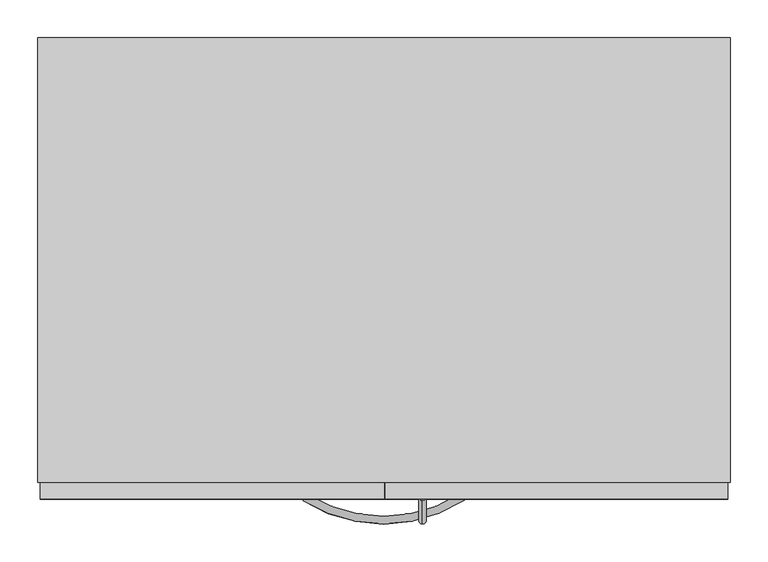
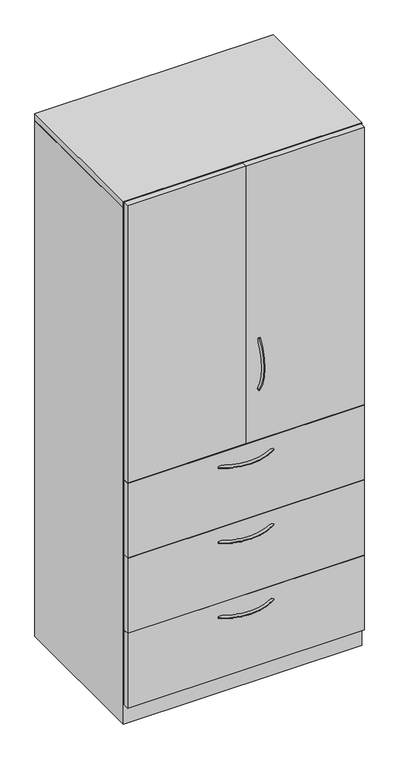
"""IFC4 building model written with IfcOpenShell, lengths in millimetres: furniture geometry, Steelcase - Universal Storage - Cabinet - Combination - Proud Steel : 83 1/2H - Hinged Doors/3 Drawers - 24D x 36W."""

from ifc_helpers import new_model, si_unit, point, frame, origin, place, context, project, spatial, polyline, circle_curve, ellipse_curve, trimmed, outline, extrude, faceted_brep, source, transform, mapped, element, save
from ifc_brep_helpers import plane_surface, revolved_surface, advanced_brep


def furniture_aec6026e(model_context):
    return source(origin(), model_context, "Body", "SolidModel", [
        extrude(outline(polyline([(911.2225413, -479.552), (3.1725353, -479.552), (3.1725353, -457.3261219), (911.2225413, -457.3261219), (911.2225413, -479.552)])), frame((0.0, 0.0, 77.724), z_axis=(0.0, 0.0, 1.0), x_axis=(1.0, 0.0, 0.0)), (0.0, 0.0, 1.0), 303.276),
        extrude(outline(polyline([(911.2225413, -479.552), (3.1725353, -479.552), (3.1725353, -457.3261219), (911.2225413, -457.3261219), (911.2225413, -479.552)])), frame((0.0, 0.0, 382.524), z_axis=(0.0, 0.0, 1.0), x_axis=(1.0, 0.0, 0.0)), (0.0, 0.0, 1.0), 303.276),
        extrude(outline(polyline([(911.2225413, -479.552), (3.1725353, -479.552), (3.1725353, -457.3261219), (911.2225413, -457.3261219), (911.2225413, -479.552)])), frame((0.0, 0.0, 687.3240349), z_axis=(0.0, 0.0, 1.0), x_axis=(1.0, 0.0, 0.0)), (0.0, 0.0, 1.0), 303.2759651),
        extrude(outline(polyline([(457.2, -479.552), (3.1725353, -479.552), (3.1725353, -457.3261219), (457.2, -457.3261219), (457.2, -479.552)])), frame((0.0, 0.0, 992.5062596), z_axis=(0.0, 0.0, 1.0), x_axis=(1.0, 0.0, 0.0)), (0.0, 0.0, 1.0), 1125.22),
        extrude(outline(polyline([(911.2225413, -479.552), (458.7239992, -479.552), (458.7239992, -457.3261219), (911.2225413, -457.3261219), (911.2225413, -479.552)])), frame((0.0, 0.0, 992.5062596), z_axis=(0.0, 0.0, 1.0), x_axis=(1.0, 0.0, 0.0)), (0.0, 0.0, 1.0), 1125.22),
        advanced_brep(
        [(507.9682496, -481.5705994, 1404.643666), (507.9682496, -473.0108019, 1399.1705073), (507.9682496, -481.1337636, 1192.3367456), (507.9682496, -472.5965612, 1197.8450825)],
        [
            (0, 1, circle_curve(frame((507.9682496, -477.2907007, 1401.9070866), z_axis=(0.0, 0.5386967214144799, 0.842499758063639), x_axis=(0.0, 0.842499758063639, -0.5386967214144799)), 5.08)),
            (1, 0, circle_curve(frame((507.9682496, -477.2907007, 1401.9070866), z_axis=(0.0, 0.5386967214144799, 0.842499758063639), x_axis=(0.0, 0.842499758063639, -0.5386967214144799)), 5.08)),
            (2, 3, circle_curve(frame((507.9682496, -476.8651624, 1195.0909141), z_axis=(0.0, 0.5421591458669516, -0.8402758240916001), x_axis=(0.0, 0.8402758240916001, 0.5421591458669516)), 5.08)),
            (3, 2, circle_curve(frame((507.9682496, -476.8651624, 1195.0909141), z_axis=(0.0, 0.5421591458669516, -0.8402758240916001), x_axis=(0.0, 0.8402758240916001, 0.5421591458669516)), 5.08)),
            (3, 1, circle_curve(frame((507.9682496, -316.0827352, 1298.8302589), z_axis=(-1.0, 0.0, 0.0), x_axis=(0.0, -0.8424997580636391, 0.5386967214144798)), 186.2648211)),
            (0, 2, circle_curve(frame((507.9682496, -316.0827352, 1298.8302589), z_axis=(1.0, 0.0, 0.0), x_axis=(0.0, -0.8424997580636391, 0.5386967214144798)), 196.4248211)),
        ],
        [
            plane_surface(frame((508.7619996, -476.6365286, 1401.4888072), z_axis=(0.0, 0.5386967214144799, 0.8424997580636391), x_axis=(1.0, 0.0, 0.0))),
            plane_surface(frame((508.7619996, -476.2127171, 1195.511882), z_axis=(0.0, 0.5421591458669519, -0.8402758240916), x_axis=(1.0, 0.0, 0.0))),
            revolved_surface(trimmed(ellipse_curve(frame((507.9682496, -477.2907007, 1401.9070866), z_axis=(0.0, 0.5386967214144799, 0.842499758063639), x_axis=(0.0, 0.842499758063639, -0.5386967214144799)), 5.08, 5.08), [point((507.9682496, -481.5705994, 1404.643666))], [point((507.9682496, -473.0108019, 1399.1705073))], True, "CARTESIAN"), (508.7619996, -316.0827352, 1298.8302589), (1.0, 0.0, 0.0)),
            revolved_surface(trimmed(ellipse_curve(frame((507.9682496, -477.2907007, 1401.9070866), z_axis=(0.0, 0.5386967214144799, 0.842499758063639), x_axis=(0.0, 0.842499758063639, -0.5386967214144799)), 5.08, 5.08), [point((507.9682496, -473.0108019, 1399.1705073))], [point((507.9682496, -481.5705994, 1404.643666))], True, "CARTESIAN"), (508.7619996, -316.0827352, 1298.8302589), (1.0, 0.0, 0.0)),
        ],
        [
            (0, [[1, 2]]),
            (1, [[3, 4]]),
            (2, [[5, -1, 6, -4]]),
            (3, [[-6, -2, -5, -3]]),
        ],
    ),
        advanced_brep(
        [(350.6245932, -481.5705994, 323.56425), (356.0977519, -473.0108019, 323.56425), (562.9315136, -481.1337636, 323.56425), (557.4231767, -472.5965612, 323.56425)],
        [
            (0, 1, circle_curve(frame((353.3611726, -477.2907007, 323.56425), z_axis=(-0.8424997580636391, 0.5386967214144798, 0.0), x_axis=(0.5386967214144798, 0.8424997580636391, 0.0)), 5.08)),
            (1, 0, circle_curve(frame((353.3611726, -477.2907007, 323.56425), z_axis=(-0.8424997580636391, 0.5386967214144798, 0.0), x_axis=(0.5386967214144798, 0.8424997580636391, 0.0)), 5.08)),
            (2, 3, circle_curve(frame((560.1773452, -476.8651624, 323.56425), z_axis=(0.8402758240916, 0.5421591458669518, 0.0), x_axis=(-0.5421591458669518, 0.8402758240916, 0.0)), 5.08)),
            (3, 2, circle_curve(frame((560.1773452, -476.8651624, 323.56425), z_axis=(0.8402758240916, 0.5421591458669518, 0.0), x_axis=(-0.5421591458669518, 0.8402758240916, 0.0)), 5.08)),
            (3, 1, circle_curve(frame((456.4380004, -316.0827352, 323.56425), z_axis=(0.0, 0.0, -1.0), x_axis=(-0.5386967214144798, -0.8424997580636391, 0.0)), 186.2648211)),
            (0, 2, circle_curve(frame((456.4380004, -316.0827352, 323.56425), z_axis=(0.0, 0.0, 1.0), x_axis=(-0.5386967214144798, -0.8424997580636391, 0.0)), 196.4248211)),
        ],
        [
            plane_surface(frame((353.7794521, -476.6365286, 324.358), z_axis=(-0.8424997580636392, 0.5386967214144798, 0.0), x_axis=(0.0, 0.0, 1.0))),
            plane_surface(frame((559.7563772, -476.2127171, 324.358), z_axis=(0.8402758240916, 0.5421591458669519, 0.0), x_axis=(0.0, 0.0, 1.0))),
            revolved_surface(trimmed(ellipse_curve(frame((353.3611726, -477.2907007, 323.56425), z_axis=(-0.8424997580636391, 0.5386967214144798, 0.0), x_axis=(0.5386967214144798, 0.8424997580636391, 0.0)), 5.08, 5.08), [point((350.6245932, -481.5705994, 323.56425))], [point((356.0977519, -473.0108019, 323.56425))], True, "CARTESIAN"), (456.4380004, -316.0827352, 324.358), (0.0, 0.0, 1.0)),
            revolved_surface(trimmed(ellipse_curve(frame((353.3611726, -477.2907007, 323.56425), z_axis=(-0.8424997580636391, 0.5386967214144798, 0.0), x_axis=(0.5386967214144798, 0.8424997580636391, 0.0)), 5.08, 5.08), [point((356.0977519, -473.0108019, 323.56425))], [point((350.6245932, -481.5705994, 323.56425))], True, "CARTESIAN"), (456.4380004, -316.0827352, 324.358), (0.0, 0.0, 1.0)),
        ],
        [
            (0, [[1, 2]]),
            (1, [[3, 4]]),
            (2, [[5, -1, 6, -4]]),
            (3, [[-6, -2, -5, -3]]),
        ],
    ),
        advanced_brep(
        [(350.6245932, -481.5705994, 627.85625), (356.0977519, -473.0108019, 627.85625), (562.9315136, -481.1337636, 627.85625), (557.4231767, -472.5965612, 627.85625)],
        [
            (0, 1, circle_curve(frame((353.3611726, -477.2907007, 627.85625), z_axis=(-0.8424997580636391, 0.5386967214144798, 0.0), x_axis=(0.5386967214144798, 0.8424997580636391, 0.0)), 5.08)),
            (1, 0, circle_curve(frame((353.3611726, -477.2907007, 627.85625), z_axis=(-0.8424997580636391, 0.5386967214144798, 0.0), x_axis=(0.5386967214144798, 0.8424997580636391, 0.0)), 5.08)),
            (2, 3, circle_curve(frame((560.1773452, -476.8651624, 627.85625), z_axis=(0.8402758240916, 0.5421591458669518, 0.0), x_axis=(-0.5421591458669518, 0.8402758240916, 0.0)), 5.08)),
            (3, 2, circle_curve(frame((560.1773452, -476.8651624, 627.85625), z_axis=(0.8402758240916, 0.5421591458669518, 0.0), x_axis=(-0.5421591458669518, 0.8402758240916, 0.0)), 5.08)),
            (3, 1, circle_curve(frame((456.4380004, -316.0827352, 627.85625), z_axis=(0.0, 0.0, -1.0), x_axis=(-0.5386967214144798, -0.8424997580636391, 0.0)), 186.2648211)),
            (0, 2, circle_curve(frame((456.4380004, -316.0827352, 627.85625), z_axis=(0.0, 0.0, 1.0), x_axis=(-0.5386967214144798, -0.8424997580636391, 0.0)), 196.4248211)),
        ],
        [
            plane_surface(frame((353.7794521, -476.6365286, 628.65), z_axis=(-0.8424997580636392, 0.5386967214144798, 0.0), x_axis=(0.0, 0.0, 1.0))),
            plane_surface(frame((559.7563772, -476.2127171, 628.65), z_axis=(0.8402758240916, 0.5421591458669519, 0.0), x_axis=(0.0, 0.0, 1.0))),
            revolved_surface(trimmed(ellipse_curve(frame((353.3611726, -477.2907007, 627.85625), z_axis=(-0.8424997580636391, 0.5386967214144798, 0.0), x_axis=(0.5386967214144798, 0.8424997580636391, 0.0)), 5.08, 5.08), [point((350.6245932, -481.5705994, 627.85625))], [point((356.0977519, -473.0108019, 627.85625))], True, "CARTESIAN"), (456.4380004, -316.0827352, 628.65), (0.0, 0.0, 1.0)),
            revolved_surface(trimmed(ellipse_curve(frame((353.3611726, -477.2907007, 627.85625), z_axis=(-0.8424997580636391, 0.5386967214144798, 0.0), x_axis=(0.5386967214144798, 0.8424997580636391, 0.0)), 5.08, 5.08), [point((356.0977519, -473.0108019, 627.85625))], [point((350.6245932, -481.5705994, 627.85625))], True, "CARTESIAN"), (456.4380004, -316.0827352, 628.65), (0.0, 0.0, 1.0)),
        ],
        [
            (0, [[1, 2]]),
            (1, [[3, 4]]),
            (2, [[5, -1, 6, -4]]),
            (3, [[-6, -2, -5, -3]]),
        ],
    ),
        advanced_brep(
        [(350.6245932, -481.5705994, 932.65625), (356.0977519, -473.0108019, 932.65625), (562.9315136, -481.1337636, 932.65625), (557.4231767, -472.5965612, 932.65625)],
        [
            (0, 1, circle_curve(frame((353.3611726, -477.2907007, 932.65625), z_axis=(-0.8424997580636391, 0.5386967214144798, 0.0), x_axis=(0.5386967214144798, 0.8424997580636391, 0.0)), 5.08)),
            (1, 0, circle_curve(frame((353.3611726, -477.2907007, 932.65625), z_axis=(-0.8424997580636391, 0.5386967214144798, 0.0), x_axis=(0.5386967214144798, 0.8424997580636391, 0.0)), 5.08)),
            (2, 3, circle_curve(frame((560.1773452, -476.8651624, 932.65625), z_axis=(0.8402758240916, 0.5421591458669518, 0.0), x_axis=(-0.5421591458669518, 0.8402758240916, 0.0)), 5.08)),
            (3, 2, circle_curve(frame((560.1773452, -476.8651624, 932.65625), z_axis=(0.8402758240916, 0.5421591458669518, 0.0), x_axis=(-0.5421591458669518, 0.8402758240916, 0.0)), 5.08)),
            (3, 1, circle_curve(frame((456.4380004, -316.0827352, 932.65625), z_axis=(0.0, 0.0, -1.0), x_axis=(-0.5386967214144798, -0.8424997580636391, 0.0)), 186.2648211)),
            (0, 2, circle_curve(frame((456.4380004, -316.0827352, 932.65625), z_axis=(0.0, 0.0, 1.0), x_axis=(-0.5386967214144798, -0.8424997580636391, 0.0)), 196.4248211)),
        ],
        [
            plane_surface(frame((353.7794521, -476.6365286, 933.45), z_axis=(-0.8424997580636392, 0.5386967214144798, 0.0), x_axis=(0.0, 0.0, 1.0))),
            plane_surface(frame((559.7563772, -476.2127171, 933.45), z_axis=(0.8402758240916, 0.5421591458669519, 0.0), x_axis=(0.0, 0.0, 1.0))),
            revolved_surface(trimmed(ellipse_curve(frame((353.3611726, -477.2907007, 932.65625), z_axis=(-0.8424997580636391, 0.5386967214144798, 0.0), x_axis=(0.5386967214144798, 0.8424997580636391, 0.0)), 5.08, 5.08), [point((350.6245932, -481.5705994, 932.65625))], [point((356.0977519, -473.0108019, 932.65625))], True, "CARTESIAN"), (456.4380004, -316.0827352, 933.45), (0.0, 0.0, 1.0)),
            revolved_surface(trimmed(ellipse_curve(frame((353.3611726, -477.2907007, 932.65625), z_axis=(-0.8424997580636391, 0.5386967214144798, 0.0), x_axis=(0.5386967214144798, 0.8424997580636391, 0.0)), 5.08, 5.08), [point((356.0977519, -473.0108019, 932.65625))], [point((350.6245932, -481.5705994, 932.65625))], True, "CARTESIAN"), (456.4380004, -316.0827352, 933.45), (0.0, 0.0, 1.0)),
        ],
        [
            (0, [[1, 2]]),
            (1, [[3, 4]]),
            (2, [[5, -1, 6, -4]]),
            (3, [[-6, -2, -5, -3]]),
        ],
    ),
        faceted_brep([(25.4000008, -457.3261219, 76.2), (889.0000242, -457.3261219, 76.2), (889.0000242, 104.6479992, 76.2), (25.4000008, 104.6479992, 76.2), (914.4, 130.048, 0.0), (914.4, -457.3261219, 0.0), (0.0, -457.3261219, 0.0), (0.0, 130.048, 0.0), (0.0, 130.048, 2093.976), (914.4, 130.048, 2093.976), (0.0, -457.3261219, 2093.976), (914.4, -457.3261219, 2093.976), (889.0000242, -457.3261219, 2093.976), (25.4000008, -457.3261219, 2093.976), (889.0000242, 104.6479992, 2093.976), (25.4000008, 104.6479992, 2093.976)], [[[0, 1, 2, 3]], [[4, 5, 6, 7]], [[4, 7, 8, 9]], [[8, 7, 6, 10]], [[10, 6, 5, 11, 12, 1, 0, 13]], [[11, 5, 4, 9]], [[14, 12, 11, 9, 8, 10, 13, 15]], [[12, 14, 2, 1]], [[15, 13, 0, 3]], [[14, 15, 3, 2]]]),
        extrude(outline(polyline([(914.4, 130.048), (914.4, -457.3261219), (0.0, -457.3261219), (0.0, 130.048), (914.4, 130.048)])), frame((0.0, 0.0, 2095.4999516), z_axis=(0.0, 0.0, 1.0), x_axis=(1.0, 0.0, 0.0)), (0.0, 0.0, 1.0), 25.4000484),
    ])


if __name__ == "__main__":
    model = new_model("IFC4")
    model_context = context("Model", 3, world=origin())
    ifc_project = project(units=[si_unit("LENGTHUNIT", "METRE", prefix="MILLI")], contexts=[model_context])
    site = spatial("IfcSite", under=ifc_project)
    building = spatial("IfcBuilding", under=site)
    placement = place(None, origin())
    furniture_shape = furniture_aec6026e(model_context)
    element("IfcFurniture", 1, ObjectType="Steelcase - Universal Storage - Cabinet - Combination - Proud Steel : 83 1/2H - Hinged Doors/3 Drawers - 24D x 36W", at=placement, inside=building, context=model_context, shape_type="MappedRepresentation", body=[
        mapped(furniture_shape, transform((0.0, 0.0, 0.0), x_axis=(1.0, 0.0, 0.0), y_axis=(0.0, 1.0, 0.0), z_axis=(0.0, 0.0, 1.0))),
    ])
    save(model, "model.ifc")
